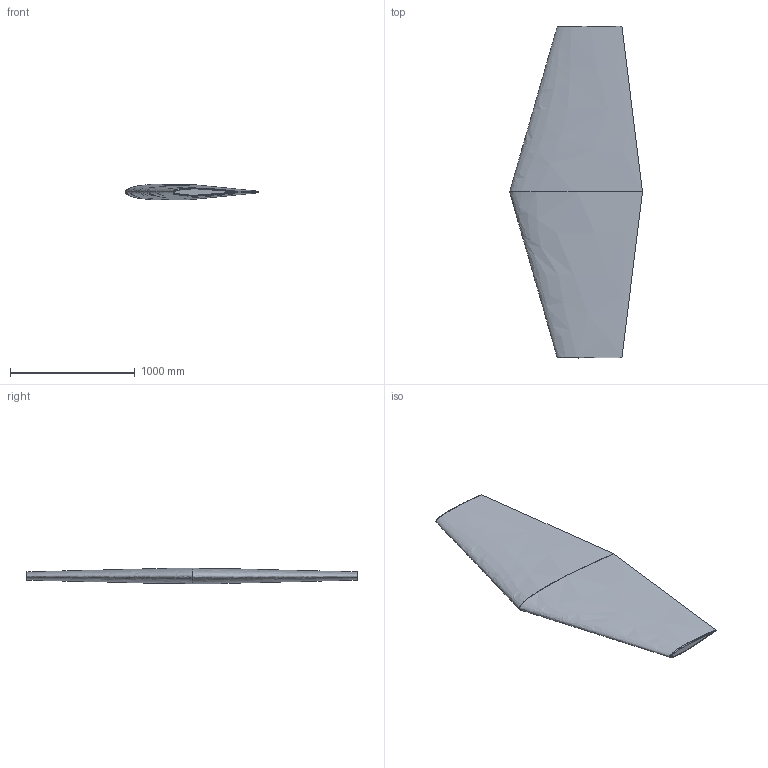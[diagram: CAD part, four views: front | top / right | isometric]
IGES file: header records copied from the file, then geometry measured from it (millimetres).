
Start section: START RECORD GO HERE.
Global section: file name: HORIZONTAL-TAIL.igs; native system: DASSAULT SYSTEMES CATIA V5 R20 - www.3ds.com; preprocessor: CATIA Version 5 Release 20 ; author: omo; organization: ACE; date: 20220614.121251; units: millimetre
Bounding box: 1064.42 x 2660 x 127.34 mm (x, y, z)
Surface area: 4369709.4 mm2 (no closed solid volume)
Topology: 0 solids, 0 shells, 8 faces, 33 edges, 33 vertices
Faces by surface type: bspline 6, plane 2
